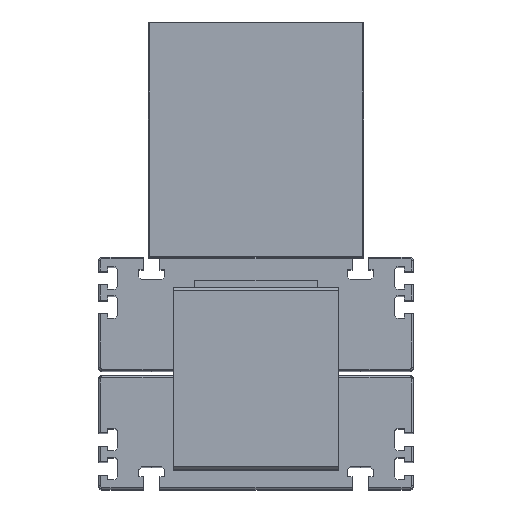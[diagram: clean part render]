
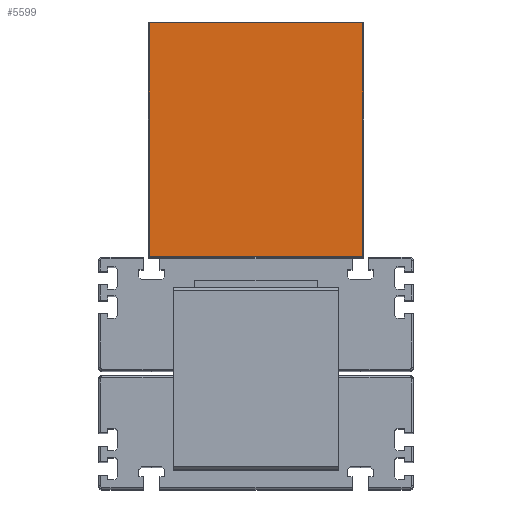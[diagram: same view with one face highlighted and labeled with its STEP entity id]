
A CAD part, top view. The second image highlights one B-rep face of the part: STEP entity #5599.
In plain terms, the highlighted planar face has unit normal (0, 0, 1).
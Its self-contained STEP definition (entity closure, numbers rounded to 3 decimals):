
#1907 = ORIENTED_EDGE ( 'NONE', *, *, #15536, .T. ) ;
#2349 = LINE ( 'NONE', #3943, #16645 ) ;
#2731 = CARTESIAN_POINT ( 'NONE',  ( 65., 0., 135. ) ) ;
#2836 = AXIS2_PLACEMENT_3D ( 'NONE', #2731, #9243, #5379 ) ;
#3071 = ORIENTED_EDGE ( 'NONE', *, *, #8150, .T. ) ;
#3943 = CARTESIAN_POINT ( 'NONE',  ( 64.5, 142., 135. ) ) ;
#4312 = VECTOR ( 'NONE', #6517, 1000. ) ;
#4343 = CARTESIAN_POINT ( 'NONE',  ( 65., 141.5, 135. ) ) ;
#4845 = VERTEX_POINT ( 'NONE', #8614 ) ;
#5211 = FACE_OUTER_BOUND ( 'NONE', #7504, .T. ) ;
#5249 = ORIENTED_EDGE ( 'NONE', *, *, #11825, .T. ) ;
#5379 = DIRECTION ( 'NONE',  ( 0., 1., 0. ) ) ;
#5583 = DIRECTION ( 'NONE',  ( -1., 0., 0. ) ) ;
#5599 = ADVANCED_FACE ( 'NONE', ( #5211 ), #10576, .F. ) ;
#5603 = CARTESIAN_POINT ( 'NONE',  ( 64.5, 141.5, 135. ) ) ;
#6517 = DIRECTION ( 'NONE',  ( 1., 0., 0. ) ) ;
#6592 = ORIENTED_EDGE ( 'NONE', *, *, #12521, .T. ) ;
#7249 = LINE ( 'NONE', #8481, #15407 ) ;
#7504 = EDGE_LOOP ( 'NONE', ( #6592, #5249, #3071, #1907 ) ) ;
#8150 = EDGE_CURVE ( 'NONE', #14451, #13244, #7249, .T. ) ;
#8201 = CARTESIAN_POINT ( 'NONE',  ( -64.5, 0.5, 135. ) ) ;
#8481 = CARTESIAN_POINT ( 'NONE',  ( -64.5, 0., 135. ) ) ;
#8614 = CARTESIAN_POINT ( 'NONE',  ( 64.5, 0.5, 135. ) ) ;
#9243 = DIRECTION ( 'NONE',  ( 0., 0., -1. ) ) ;
#9546 = VECTOR ( 'NONE', #5583, 1000. ) ;
#9717 = LINE ( 'NONE', #4343, #9546 ) ;
#10567 = CARTESIAN_POINT ( 'NONE',  ( 65., 0.5, 135. ) ) ;
#10576 = PLANE ( 'NONE',  #2836 ) ;
#11002 = CARTESIAN_POINT ( 'NONE',  ( -64.5, 141.5, 135. ) ) ;
#11825 = EDGE_CURVE ( 'NONE', #12980, #14451, #9717, .T. ) ;
#12521 = EDGE_CURVE ( 'NONE', #4845, #12980, #2349, .T. ) ;
#12980 = VERTEX_POINT ( 'NONE', #5603 ) ;
#13244 = VERTEX_POINT ( 'NONE', #8201 ) ;
#14441 = LINE ( 'NONE', #10567, #4312 ) ;
#14451 = VERTEX_POINT ( 'NONE', #11002 ) ;
#15284 = DIRECTION ( 'NONE',  ( 0., -1., 0. ) ) ;
#15407 = VECTOR ( 'NONE', #15284, 1000. ) ;
#15536 = EDGE_CURVE ( 'NONE', #13244, #4845, #14441, .T. ) ;
#16118 = DIRECTION ( 'NONE',  ( 0., 1., 0. ) ) ;
#16645 = VECTOR ( 'NONE', #16118, 1000. ) ;
